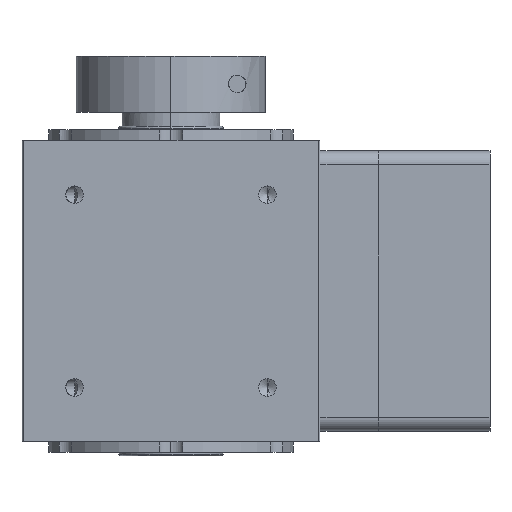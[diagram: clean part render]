
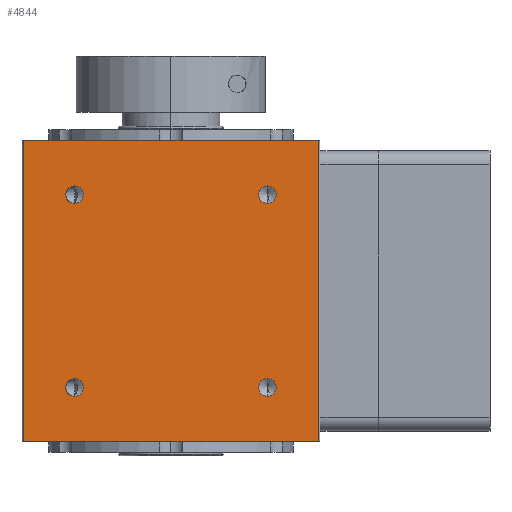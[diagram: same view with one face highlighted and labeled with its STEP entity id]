
A CAD part, left-side view. The second image highlights one B-rep face of the part: STEP entity #4844.
In plain terms, the highlighted planar face has unit normal (-1, 0, 0).
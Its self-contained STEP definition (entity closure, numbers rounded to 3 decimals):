
#2 = CARTESIAN_POINT ( 'NONE',  ( -42.5, 42., -43. ) ) ;
#217 = AXIS2_PLACEMENT_3D ( 'NONE', #1135, #3182, #8307 ) ;
#425 = ORIENTED_EDGE ( 'NONE', *, *, #6996, .T. ) ;
#578 = DIRECTION ( 'NONE',  ( -1., 0., 0. ) ) ;
#645 = LINE ( 'NONE', #3001, #2924 ) ;
#680 = ORIENTED_EDGE ( 'NONE', *, *, #12755, .F. ) ;
#1010 = ORIENTED_EDGE ( 'NONE', *, *, #4741, .F. ) ;
#1135 = CARTESIAN_POINT ( 'NONE',  ( -42.5, -27.5, 27.5 ) ) ;
#1508 = CARTESIAN_POINT ( 'NONE',  ( -42.5, 27.5, 27.5 ) ) ;
#1626 = VERTEX_POINT ( 'NONE', #8060 ) ;
#1881 = DIRECTION ( 'NONE',  ( 0., -1., 0. ) ) ;
#1986 = ORIENTED_EDGE ( 'NONE', *, *, #10824, .F. ) ;
#2000 = DIRECTION ( 'NONE',  ( 0., 0., 1. ) ) ;
#2085 = DIRECTION ( 'NONE',  ( 0., 0., 1. ) ) ;
#2442 = ORIENTED_EDGE ( 'NONE', *, *, #9579, .F. ) ;
#2525 = AXIS2_PLACEMENT_3D ( 'NONE', #13377, #5978, #2978 ) ;
#2598 = EDGE_CURVE ( 'NONE', #11295, #4982, #11517, .T. ) ;
#2743 = CARTESIAN_POINT ( 'NONE',  ( -42.5, -27.5, 27.5 ) ) ;
#2838 = DIRECTION ( 'NONE',  ( 0., 0., 1. ) ) ;
#2880 = CARTESIAN_POINT ( 'NONE',  ( -42.5, 42.5, 43. ) ) ;
#2924 = VECTOR ( 'NONE', #13572, 1000. ) ;
#2978 = DIRECTION ( 'NONE',  ( 0., -1., 0. ) ) ;
#3001 = CARTESIAN_POINT ( 'NONE',  ( -42.5, 42., -43. ) ) ;
#3040 = DIRECTION ( 'NONE',  ( -1., 0., 0. ) ) ;
#3049 = ORIENTED_EDGE ( 'NONE', *, *, #2598, .F. ) ;
#3170 = FACE_BOUND ( 'NONE', #4539, .T. ) ;
#3182 = DIRECTION ( 'NONE',  ( -1., 0., 0. ) ) ;
#3497 = DIRECTION ( 'NONE',  ( -1., 0., 0. ) ) ;
#3510 = FACE_BOUND ( 'NONE', #12062, .T. ) ;
#3980 = ORIENTED_EDGE ( 'NONE', *, *, #6064, .F. ) ;
#4216 = VERTEX_POINT ( 'NONE', #4683 ) ;
#4383 = CARTESIAN_POINT ( 'NONE',  ( -42.5, -42., 43. ) ) ;
#4485 = DIRECTION ( 'NONE',  ( -1., 0., 0. ) ) ;
#4506 = ORIENTED_EDGE ( 'NONE', *, *, #11172, .F. ) ;
#4539 = EDGE_LOOP ( 'NONE', ( #9927, #2442 ) ) ;
#4683 = CARTESIAN_POINT ( 'NONE',  ( -42.5, -27.5, -30. ) ) ;
#4727 = CIRCLE ( 'NONE', #12656, 2.5 ) ;
#4741 = EDGE_CURVE ( 'NONE', #4982, #11295, #9220, .T. ) ;
#4844 = ADVANCED_FACE ( 'NONE', ( #3170, #5969, #3510, #12986, #13315 ), #12127, .T. ) ;
#4957 = DIRECTION ( 'NONE',  ( -1., 0., 0. ) ) ;
#4979 = ORIENTED_EDGE ( 'NONE', *, *, #8743, .T. ) ;
#4982 = VERTEX_POINT ( 'NONE', #8340 ) ;
#5019 = CIRCLE ( 'NONE', #10291, 2.5 ) ;
#5159 = AXIS2_PLACEMENT_3D ( 'NONE', #7975, #578, #11052 ) ;
#5310 = EDGE_CURVE ( 'NONE', #9247, #13349, #12145, .T. ) ;
#5404 = VERTEX_POINT ( 'NONE', #2 ) ;
#5477 = VECTOR ( 'NONE', #1881, 1000. ) ;
#5539 = VERTEX_POINT ( 'NONE', #6036 ) ;
#5725 = DIRECTION ( 'NONE',  ( 0., 0., 1. ) ) ;
#5969 = FACE_BOUND ( 'NONE', #12773, .T. ) ;
#5978 = DIRECTION ( 'NONE',  ( -1., 0., 0. ) ) ;
#6036 = CARTESIAN_POINT ( 'NONE',  ( -42.5, 27.5, 25. ) ) ;
#6064 = EDGE_CURVE ( 'NONE', #4216, #10279, #10661, .T. ) ;
#6836 = CIRCLE ( 'NONE', #217, 2.5 ) ;
#6996 = EDGE_CURVE ( 'NONE', #9247, #5404, #645, .T. ) ;
#7059 = VERTEX_POINT ( 'NONE', #7718 ) ;
#7112 = EDGE_CURVE ( 'NONE', #5404, #12419, #8164, .T. ) ;
#7242 = DIRECTION ( 'NONE',  ( 0., -1., 0. ) ) ;
#7353 = CARTESIAN_POINT ( 'NONE',  ( -42.5, -27.5, 30. ) ) ;
#7524 = CIRCLE ( 'NONE', #9115, 2.5 ) ;
#7659 = CIRCLE ( 'NONE', #10254, 2.5 ) ;
#7718 = CARTESIAN_POINT ( 'NONE',  ( -42.5, -27.5, 25. ) ) ;
#7740 = DIRECTION ( 'NONE',  ( 0., 0., 1. ) ) ;
#7975 = CARTESIAN_POINT ( 'NONE',  ( -42.5, 27.5, -27.5 ) ) ;
#8060 = CARTESIAN_POINT ( 'NONE',  ( -42.5, 27.5, 30. ) ) ;
#8164 = LINE ( 'NONE', #10430, #12252 ) ;
#8228 = AXIS2_PLACEMENT_3D ( 'NONE', #8716, #9867, #5725 ) ;
#8307 = DIRECTION ( 'NONE',  ( 0., 0., 1. ) ) ;
#8308 = CARTESIAN_POINT ( 'NONE',  ( -42.5, -42., -43. ) ) ;
#8340 = CARTESIAN_POINT ( 'NONE',  ( -42.5, 27.5, -30. ) ) ;
#8716 = CARTESIAN_POINT ( 'NONE',  ( -42.5, -27.5, -27.5 ) ) ;
#8743 = EDGE_CURVE ( 'NONE', #12419, #13349, #9623, .T. ) ;
#8849 = EDGE_CURVE ( 'NONE', #1626, #5539, #4727, .T. ) ;
#9115 = AXIS2_PLACEMENT_3D ( 'NONE', #2743, #11186, #12206 ) ;
#9220 = CIRCLE ( 'NONE', #5159, 2.5 ) ;
#9247 = VERTEX_POINT ( 'NONE', #13373 ) ;
#9316 = CARTESIAN_POINT ( 'NONE',  ( -42.5, 27.5, 27.5 ) ) ;
#9579 = EDGE_CURVE ( 'NONE', #5539, #1626, #5019, .T. ) ;
#9623 = LINE ( 'NONE', #8308, #12056 ) ;
#9779 = CARTESIAN_POINT ( 'NONE',  ( -42.5, -42., -43. ) ) ;
#9867 = DIRECTION ( 'NONE',  ( -1., 0., 0. ) ) ;
#9897 = CARTESIAN_POINT ( 'NONE',  ( -42.5, 27.5, -25. ) ) ;
#9927 = ORIENTED_EDGE ( 'NONE', *, *, #8849, .F. ) ;
#10056 = CARTESIAN_POINT ( 'NONE',  ( -42.5, 27.5, -27.5 ) ) ;
#10254 = AXIS2_PLACEMENT_3D ( 'NONE', #10499, #4485, #2085 ) ;
#10279 = VERTEX_POINT ( 'NONE', #12092 ) ;
#10291 = AXIS2_PLACEMENT_3D ( 'NONE', #1508, #3497, #7740 ) ;
#10363 = DIRECTION ( 'NONE',  ( 0., 0., 1. ) ) ;
#10430 = CARTESIAN_POINT ( 'NONE',  ( -42.5, 42.5, -43. ) ) ;
#10499 = CARTESIAN_POINT ( 'NONE',  ( -42.5, -27.5, -27.5 ) ) ;
#10661 = CIRCLE ( 'NONE', #8228, 2.5 ) ;
#10824 = EDGE_CURVE ( 'NONE', #7059, #11148, #7524, .T. ) ;
#11052 = DIRECTION ( 'NONE',  ( 0., 0., 1. ) ) ;
#11148 = VERTEX_POINT ( 'NONE', #7353 ) ;
#11172 = EDGE_CURVE ( 'NONE', #10279, #4216, #7659, .T. ) ;
#11186 = DIRECTION ( 'NONE',  ( -1., 0., 0. ) ) ;
#11295 = VERTEX_POINT ( 'NONE', #9897 ) ;
#11472 = ORIENTED_EDGE ( 'NONE', *, *, #7112, .T. ) ;
#11517 = CIRCLE ( 'NONE', #13466, 2.5 ) ;
#12056 = VECTOR ( 'NONE', #2000, 1000. ) ;
#12062 = EDGE_LOOP ( 'NONE', ( #4506, #3980 ) ) ;
#12092 = CARTESIAN_POINT ( 'NONE',  ( -42.5, -27.5, -25. ) ) ;
#12115 = ORIENTED_EDGE ( 'NONE', *, *, #5310, .F. ) ;
#12127 = PLANE ( 'NONE',  #2525 ) ;
#12145 = LINE ( 'NONE', #2880, #5477 ) ;
#12206 = DIRECTION ( 'NONE',  ( 0., 0., 1. ) ) ;
#12252 = VECTOR ( 'NONE', #7242, 1000. ) ;
#12419 = VERTEX_POINT ( 'NONE', #9779 ) ;
#12614 = EDGE_LOOP ( 'NONE', ( #680, #1986 ) ) ;
#12618 = EDGE_LOOP ( 'NONE', ( #11472, #4979, #12115, #425 ) ) ;
#12656 = AXIS2_PLACEMENT_3D ( 'NONE', #9316, #3040, #10363 ) ;
#12755 = EDGE_CURVE ( 'NONE', #11148, #7059, #6836, .T. ) ;
#12773 = EDGE_LOOP ( 'NONE', ( #3049, #1010 ) ) ;
#12986 = FACE_BOUND ( 'NONE', #12614, .T. ) ;
#13315 = FACE_OUTER_BOUND ( 'NONE', #12618, .T. ) ;
#13349 = VERTEX_POINT ( 'NONE', #4383 ) ;
#13373 = CARTESIAN_POINT ( 'NONE',  ( -42.5, 42., 43. ) ) ;
#13377 = CARTESIAN_POINT ( 'NONE',  ( -42.5, 42.5, -43. ) ) ;
#13466 = AXIS2_PLACEMENT_3D ( 'NONE', #10056, #4957, #2838 ) ;
#13572 = DIRECTION ( 'NONE',  ( 0., 0., -1. ) ) ;
